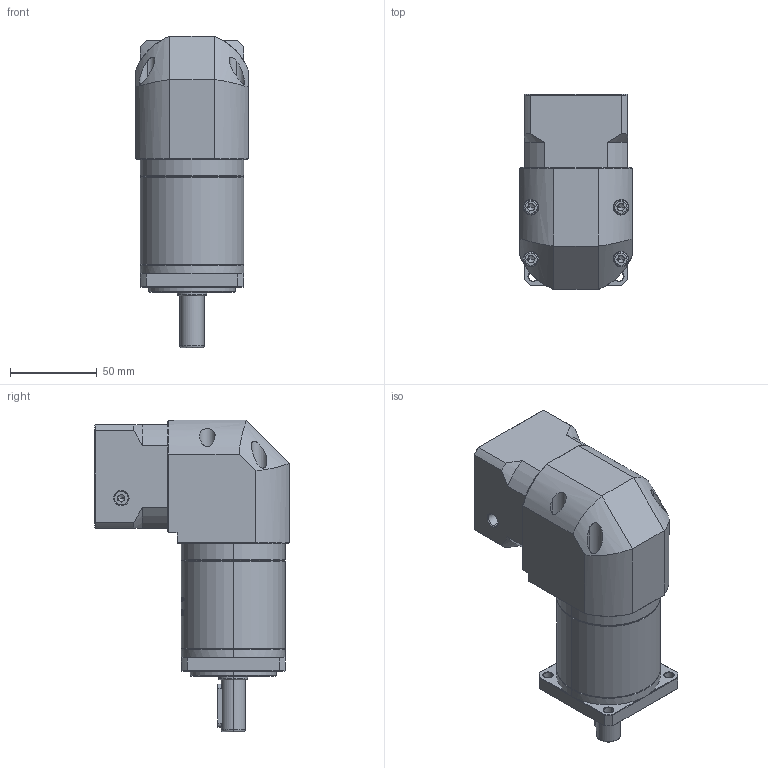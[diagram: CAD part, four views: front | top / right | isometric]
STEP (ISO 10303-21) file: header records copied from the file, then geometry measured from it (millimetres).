
FILE_DESCRIPTION (( 'STEP AP214' ), '1' );
FILE_NAME ('ZFR060-D14-L2-P2-14-50-70-M4.step', '2023-08-17T03:31:14', ( '' ), ( '' ), 'SwSTEP 2.0', 'SolidWorks 2016', '' );
FILE_SCHEMA (( 'AUTOMOTIVE_DESIGN' ));
Length unit declared in the file: millimetre
Products named in the file (1): ZFR060-D14-L2-P2-14-50-70-M4
Bounding box: 65 x 112.7 x 180 mm (x, y, z)
Volume: 586337 mm3; surface area: 81430.7 mm2
Topology: 5 solids, 6 shells, 1914 faces, 5102 edges, 3285 vertices
Faces by surface type: plane 847, cylinder 399, bspline 366, cone 288, torus 14
Entity records: 104313 total; most frequent: CARTESIAN_POINT 39844, ORIENTED_EDGE 10160, DIRECTION 7546, EDGE_CURVE 5080, VERTEX_POINT 3285, LINE 2592, VECTOR 2592, AXIS2_PLACEMENT_3D 2477
